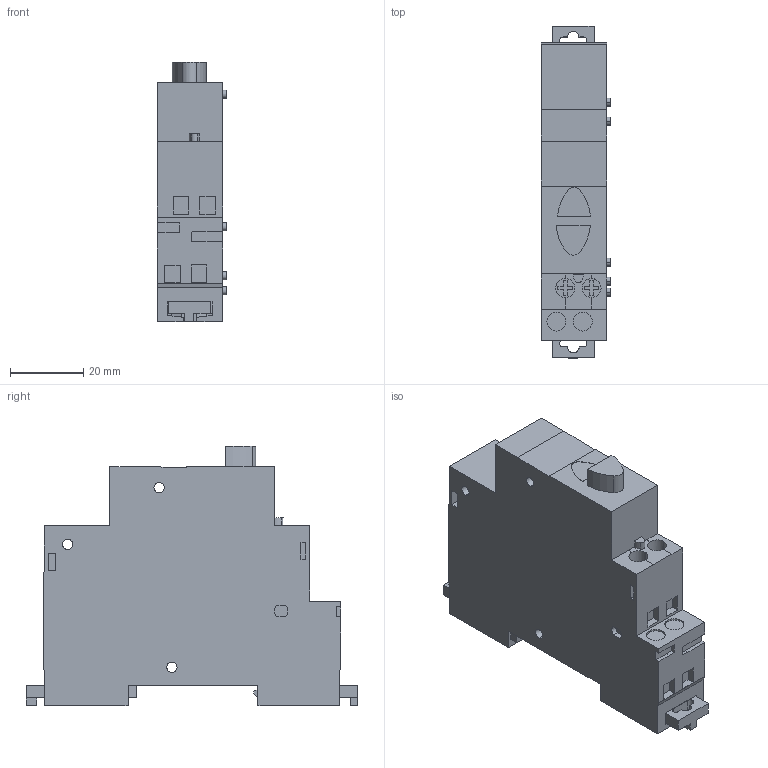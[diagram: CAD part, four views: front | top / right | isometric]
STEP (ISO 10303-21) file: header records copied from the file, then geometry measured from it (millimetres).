
FILE_DESCRIPTION((''),'2;1');
FILE_NAME('B104303','2013-07-01T',('SESA217760'),('Schneider-Electric'),'PRO/ENGINEER BY PARAMETRIC TECHNOLOGY CORPORATION, 2011410','PRO/ENGINEER BY PARAMETRIC TECHNOLOGY CORPORATION, 2011410','');
FILE_SCHEMA(('CONFIG_CONTROL_DESIGN'));
Length unit declared in the file: millimetre
Products named in the file (1): B104303
Bounding box: 18.9 x 90.8 x 71.1 mm (x, y, z)
Volume: 73900.8 mm3; surface area: 17979.9 mm2
Topology: 1 solids, 1 shells, 282 faces, 777 edges, 521 vertices
Faces by surface type: plane 234, cylinder 48
Entity records: 8969 total; most frequent: CARTESIAN_POINT 1580, ORIENTED_EDGE 1554, DIRECTION 1459, EDGE_CURVE 777, VECTOR 659, LINE 659, VERTEX_POINT 521, AXIS2_PLACEMENT_3D 400
